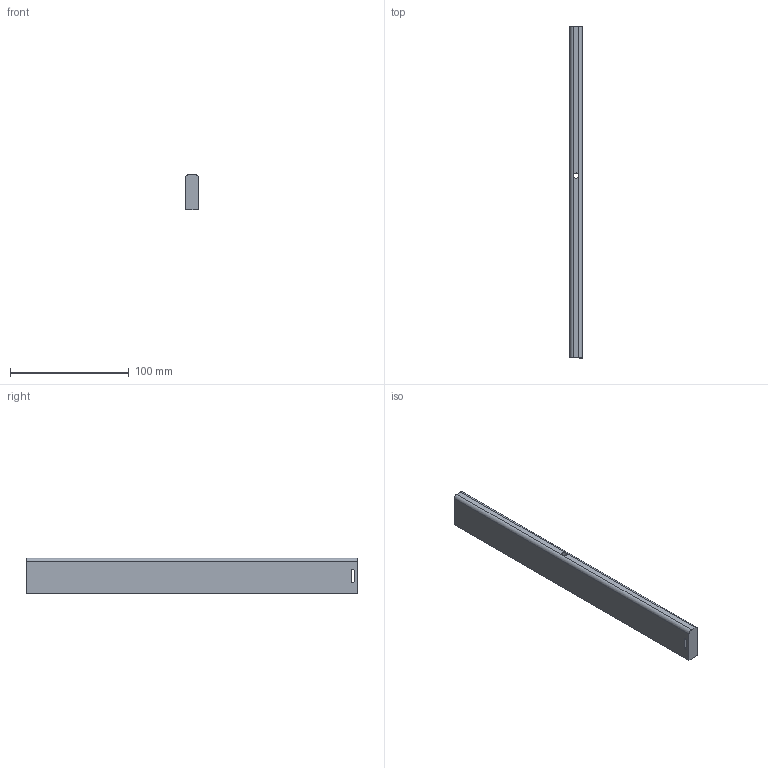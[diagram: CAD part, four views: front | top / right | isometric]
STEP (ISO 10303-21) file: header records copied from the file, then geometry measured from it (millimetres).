
FILE_DESCRIPTION (( 'STEP AP214' ), '1' );
FILE_NAME ('_Seitenreling_S760609500_RL279,5.step', '2010-09-06T14:51:31', ( 'grass' ), ( '' ), 'SwSTEP 2.0', 'SolidWorks 2010', '' );
FILE_SCHEMA (( 'AUTOMOTIVE_DESIGN' ));
Length unit declared in the file: millimetre
Products named in the file (1): _Seitenreling_S760609500_RL279,5
Bounding box: 10.5 x 279.5 x 30 mm (x, y, z)
Volume: 85576.8 mm3; surface area: 23395.2 mm2
Topology: 1 solids, 1 shells, 23 faces, 56 edges, 36 vertices
Faces by surface type: plane 15, cylinder 8
Entity records: 716 total; most frequent: DIRECTION 120, CARTESIAN_POINT 116, ORIENTED_EDGE 112, EDGE_CURVE 56, VECTOR 40, LINE 40, AXIS2_PLACEMENT_3D 40, VERTEX_POINT 36
